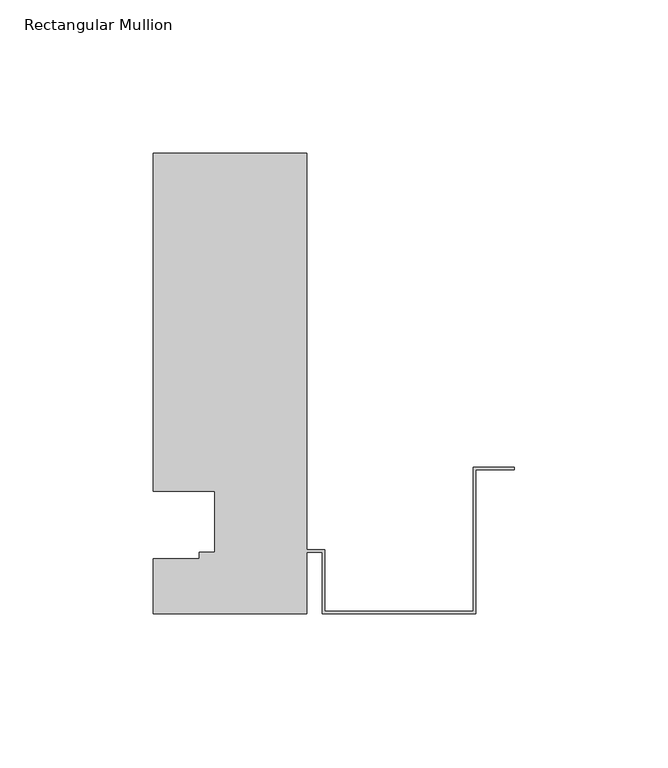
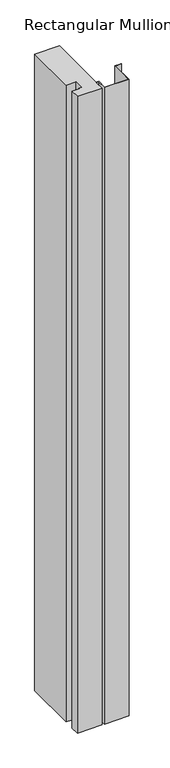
"""IFC4 building model written with IfcOpenShell, lengths in millimetres: member geometry, Rectangular Mullion : TR_CW_ALU_border_TR."""

from ifc_helpers import new_model, si_unit, frame, origin, place, context, project, spatial, polyline, outline, extrude, source, transform, mapped, element, save


def rectangular_mullion_c52893de(model_context):
    return source(origin(), model_context, "Body", "SweptSolid", [
        extrude(outline(polyline([(-117.5, 0.0), (-117.5, 18.0204111), (-102.5, 18.0204111), (-102.5, 20.0), (-97.5, 20.0), (-97.5, 40.0), (-117.5, 40.0), (-117.5, 150.0), (-67.5, 150.0), (-67.5, 20.8), (-61.7, 20.8), (-61.7, 0.8), (-13.3, 0.8), (-13.3, 47.8), (0.0, 47.8), (0.0, 47.0), (-12.5, 47.0), (-12.5, 0.0), (-62.5, 0.0), (-62.5, 20.0), (-67.5, 20.0), (-67.5, 0.0), (-117.5, 0.0)])), frame((0.0, 0.0, -1368.0), z_axis=(0.0, 0.0, 1.0), x_axis=(1.0, 0.0, 0.0)), (0.0, 0.0, 1.0), 1368.0),
    ])


if __name__ == "__main__":
    model = new_model("IFC4")
    model_context = context("Model", 3, world=origin())
    ifc_project = project(units=[si_unit("LENGTHUNIT", "METRE", prefix="MILLI")], contexts=[model_context])
    site = spatial("IfcSite", under=ifc_project)
    building = spatial("IfcBuilding", under=site)
    placement = place(None, origin())
    rectangular_mullion_shape = rectangular_mullion_c52893de(model_context)
    element("IfcMember", 1, ObjectType="Rectangular Mullion : TR_CW_ALU_border_TR", at=placement, inside=building, context=model_context, shape_type="MappedRepresentation", body=[
        mapped(rectangular_mullion_shape, transform((0.0, 0.0, 0.0), x_axis=(1.0, 0.0, 0.0), y_axis=(0.0, 1.0, 0.0), z_axis=(0.0, 0.0, 1.0))),
    ])
    save(model, "model.ifc")
